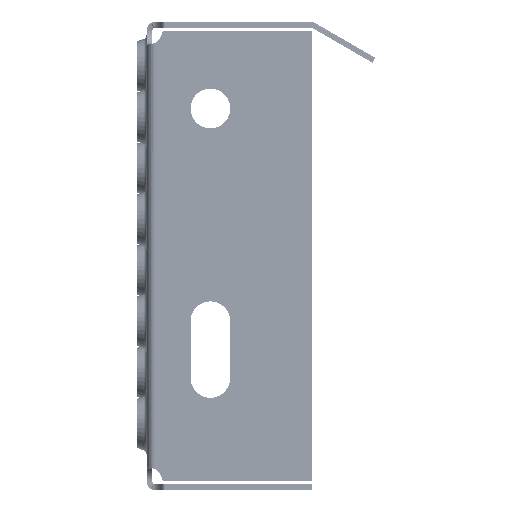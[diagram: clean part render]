
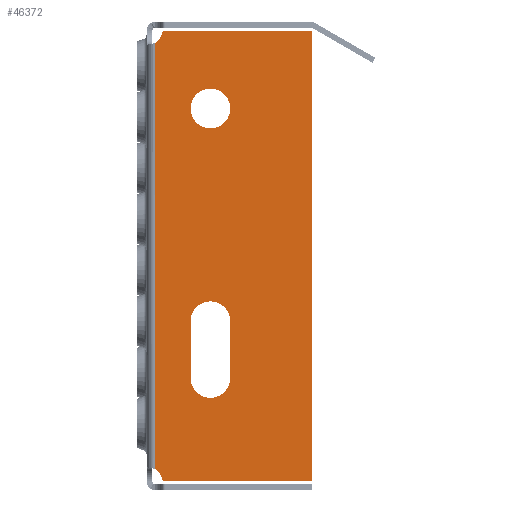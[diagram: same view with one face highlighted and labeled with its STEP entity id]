
A CAD part, left-side view. The second image highlights one B-rep face of the part: STEP entity #46372.
In plain terms, the highlighted planar face has unit normal (-1, 0, 0).
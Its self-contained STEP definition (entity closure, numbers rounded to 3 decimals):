
#2517 = DIRECTION ( 'NONE',  ( 0., -1., 0. ) ) ;
#2778 = DIRECTION ( 'NONE',  ( 1., 0., 0. ) ) ;
#3834 = AXIS2_PLACEMENT_3D ( 'NONE', #36696, #11082, #40986 ) ;
#4627 = CARTESIAN_POINT ( 'NONE',  ( -550., -58.5, -92. ) ) ;
#6097 = EDGE_LOOP ( 'NONE', ( #11728, #27257, #18641, #50879 ) ) ;
#6369 = CARTESIAN_POINT ( 'NONE',  ( -550., -15.5, -35.5 ) ) ;
#6448 = CARTESIAN_POINT ( 'NONE',  ( -550., -6.416, -92. ) ) ;
#6876 = DIRECTION ( 'NONE',  ( 0., 1., 0. ) ) ;
#7088 = DIRECTION ( 'NONE',  ( -1., 0., 0. ) ) ;
#7122 = EDGE_CURVE ( 'NONE', #21987, #16782, #38192, .T. ) ;
#7422 = DIRECTION ( 'NONE',  ( -1., 0., 0. ) ) ;
#7528 = AXIS2_PLACEMENT_3D ( 'NONE', #33050, #7422, #37316 ) ;
#7821 = CIRCLE ( 'NONE', #3834, 7. ) ;
#7884 = VERTEX_POINT ( 'NONE', #19587 ) ;
#9342 = EDGE_CURVE ( 'NONE', #27359, #31636, #49282, .T. ) ;
#9417 = EDGE_CURVE ( 'NONE', #7884, #53951, #17030, .T. ) ;
#9486 = ORIENTED_EDGE ( 'NONE', *, *, #9342, .T. ) ;
#11030 = DIRECTION ( 'NONE',  ( 0., 0., -1. ) ) ;
#11082 = DIRECTION ( 'NONE',  ( -1., 0., 0. ) ) ;
#11148 = CARTESIAN_POINT ( 'NONE',  ( -550., -6.416, -92. ) ) ;
#11170 = CARTESIAN_POINT ( 'NONE',  ( -550., -58.5, 67. ) ) ;
#11728 = ORIENTED_EDGE ( 'NONE', *, *, #23694, .F. ) ;
#12036 = DIRECTION ( 'NONE',  ( 1., 0., 0. ) ) ;
#12223 = EDGE_CURVE ( 'NONE', #12524, #25177, #45442, .T. ) ;
#12368 = FACE_BOUND ( 'NONE', #47901, .T. ) ;
#12524 = VERTEX_POINT ( 'NONE', #44356 ) ;
#12678 = ORIENTED_EDGE ( 'NONE', *, *, #14876, .T. ) ;
#12741 = DIRECTION ( 'NONE',  ( 0., 0., 1. ) ) ;
#12743 = DIRECTION ( 'NONE',  ( 1., 0., 0. ) ) ;
#13012 = CIRCLE ( 'NONE', #32179, 7. ) ;
#13074 = VECTOR ( 'NONE', #30661, 1000. ) ;
#13443 = CARTESIAN_POINT ( 'NONE',  ( -550., -29.5, -35.5 ) ) ;
#13647 = LINE ( 'NONE', #37972, #33721 ) ;
#14042 = VECTOR ( 'NONE', #46781, 1000. ) ;
#14613 = EDGE_CURVE ( 'NONE', #51721, #51721, #7821, .T. ) ;
#14876 = EDGE_CURVE ( 'NONE', #17781, #27359, #13647, .T. ) ;
#15248 = VECTOR ( 'NONE', #6876, 1000. ) ;
#15362 = EDGE_CURVE ( 'NONE', #31329, #23223, #13012, .T. ) ;
#16782 = VERTEX_POINT ( 'NONE', #41170 ) ;
#17030 = CIRCLE ( 'NONE', #7528, 1. ) ;
#17781 = VERTEX_POINT ( 'NONE', #4627 ) ;
#18155 = CARTESIAN_POINT ( 'NONE',  ( -550., -22.5, -55.5 ) ) ;
#18641 = ORIENTED_EDGE ( 'NONE', *, *, #24003, .F. ) ;
#18793 = CARTESIAN_POINT ( 'NONE',  ( -550., -6.416, 66. ) ) ;
#19154 = LINE ( 'NONE', #6369, #27863 ) ;
#19587 = CARTESIAN_POINT ( 'NONE',  ( -550., -5.43, -91.167 ) ) ;
#20956 = ORIENTED_EDGE ( 'NONE', *, *, #51666, .T. ) ;
#21445 = ORIENTED_EDGE ( 'NONE', *, *, #51834, .T. ) ;
#21612 = CARTESIAN_POINT ( 'NONE',  ( -550., -6.416, 67. ) ) ;
#21866 = VECTOR ( 'NONE', #2517, 1000. ) ;
#21987 = VERTEX_POINT ( 'NONE', #33655 ) ;
#22227 = ORIENTED_EDGE ( 'NONE', *, *, #54803, .T. ) ;
#22437 = DIRECTION ( 'NONE',  ( 0., 0., -1. ) ) ;
#23060 = DIRECTION ( 'NONE',  ( 0., 0., 1. ) ) ;
#23223 = VERTEX_POINT ( 'NONE', #46202 ) ;
#23694 = EDGE_CURVE ( 'NONE', #23223, #21987, #19154, .T. ) ;
#24003 = EDGE_CURVE ( 'NONE', #16782, #31329, #35843, .T. ) ;
#25177 = VERTEX_POINT ( 'NONE', #39037 ) ;
#26138 = AXIS2_PLACEMENT_3D ( 'NONE', #18793, #48650, #23060 ) ;
#26525 = ORIENTED_EDGE ( 'NONE', *, *, #12223, .F. ) ;
#27257 = ORIENTED_EDGE ( 'NONE', *, *, #15362, .F. ) ;
#27359 = VERTEX_POINT ( 'NONE', #11170 ) ;
#27863 = VECTOR ( 'NONE', #11030, 1000. ) ;
#28234 = CARTESIAN_POINT ( 'NONE',  ( -550., 0.5, -97.916 ) ) ;
#29644 = CARTESIAN_POINT ( 'NONE',  ( -550., -3., -97.916 ) ) ;
#29754 = AXIS2_PLACEMENT_3D ( 'NONE', #38345, #12743, #42641 ) ;
#30661 = DIRECTION ( 'NONE',  ( 0., 0., 1. ) ) ;
#31110 = CARTESIAN_POINT ( 'NONE',  ( -550., -22.5, 32.5 ) ) ;
#31329 = VERTEX_POINT ( 'NONE', #49832 ) ;
#31636 = VERTEX_POINT ( 'NONE', #21612 ) ;
#32179 = AXIS2_PLACEMENT_3D ( 'NONE', #32718, #7088, #36989 ) ;
#32492 = CARTESIAN_POINT ( 'NONE',  ( -550., -58.5, 67. ) ) ;
#32700 = DIRECTION ( 'NONE',  ( 0., 0., -1. ) ) ;
#32718 = CARTESIAN_POINT ( 'NONE',  ( -550., -22.5, -35.5 ) ) ;
#33050 = CARTESIAN_POINT ( 'NONE',  ( -550., -6.416, -91. ) ) ;
#33655 = CARTESIAN_POINT ( 'NONE',  ( -550., -15.5, -55.5 ) ) ;
#33721 = VECTOR ( 'NONE', #12741, 1000. ) ;
#34606 = LINE ( 'NONE', #6448, #21866 ) ;
#35843 = LINE ( 'NONE', #13443, #13074 ) ;
#36042 = VERTEX_POINT ( 'NONE', #42893 ) ;
#36696 = CARTESIAN_POINT ( 'NONE',  ( -550., -22.5, 39.5 ) ) ;
#36989 = DIRECTION ( 'NONE',  ( 0., 0., -1. ) ) ;
#37316 = DIRECTION ( 'NONE',  ( 0., 0., -1. ) ) ;
#37636 = CARTESIAN_POINT ( 'NONE',  ( -550., -0.5, 67. ) ) ;
#37972 = CARTESIAN_POINT ( 'NONE',  ( -550., -58.5, -92. ) ) ;
#38192 = CIRCLE ( 'NONE', #54696, 7. ) ;
#38345 = CARTESIAN_POINT ( 'NONE',  ( -550., -0.5, -92. ) ) ;
#39037 = CARTESIAN_POINT ( 'NONE',  ( -550., -3., 62.67 ) ) ;
#39269 = AXIS2_PLACEMENT_3D ( 'NONE', #28234, #2778, #32700 ) ;
#40986 = DIRECTION ( 'NONE',  ( 0., 0., -1. ) ) ;
#41170 = CARTESIAN_POINT ( 'NONE',  ( -550., -29.5, -55.5 ) ) ;
#41542 = ORIENTED_EDGE ( 'NONE', *, *, #14613, .F. ) ;
#41941 = DIRECTION ( 'NONE',  ( 0., 0., -1. ) ) ;
#42641 = DIRECTION ( 'NONE',  ( 0., 0., -1. ) ) ;
#42893 = CARTESIAN_POINT ( 'NONE',  ( -550., -5.43, 66.167 ) ) ;
#43535 = CIRCLE ( 'NONE', #26138, 1. ) ;
#44356 = CARTESIAN_POINT ( 'NONE',  ( -550., -3., -87.67 ) ) ;
#44831 = CIRCLE ( 'NONE', #29754, 5. ) ;
#45090 = CIRCLE ( 'NONE', #48541, 5. ) ;
#45132 = FACE_BOUND ( 'NONE', #6097, .T. ) ;
#45442 = LINE ( 'NONE', #29644, #14042 ) ;
#46202 = CARTESIAN_POINT ( 'NONE',  ( -550., -15.5, -35.5 ) ) ;
#46372 = ADVANCED_FACE ( 'NONE', ( #55168, #12368, #45132 ), #49655, .F. ) ;
#46781 = DIRECTION ( 'NONE',  ( 0., 0., 1. ) ) ;
#47523 = ORIENTED_EDGE ( 'NONE', *, *, #54406, .T. ) ;
#47901 = EDGE_LOOP ( 'NONE', ( #41542 ) ) ;
#48023 = DIRECTION ( 'NONE',  ( -1., 0., 0. ) ) ;
#48541 = AXIS2_PLACEMENT_3D ( 'NONE', #37636, #12036, #41941 ) ;
#48650 = DIRECTION ( 'NONE',  ( -1., 0., 0. ) ) ;
#48715 = ORIENTED_EDGE ( 'NONE', *, *, #9417, .T. ) ;
#49282 = LINE ( 'NONE', #32492, #15248 ) ;
#49655 = PLANE ( 'NONE',  #39269 ) ;
#49832 = CARTESIAN_POINT ( 'NONE',  ( -550., -29.5, -35.5 ) ) ;
#50879 = ORIENTED_EDGE ( 'NONE', *, *, #7122, .F. ) ;
#51666 = EDGE_CURVE ( 'NONE', #53951, #17781, #34606, .T. ) ;
#51721 = VERTEX_POINT ( 'NONE', #31110 ) ;
#51834 = EDGE_CURVE ( 'NONE', #36042, #25177, #45090, .T. ) ;
#53951 = VERTEX_POINT ( 'NONE', #11148 ) ;
#54406 = EDGE_CURVE ( 'NONE', #31636, #36042, #43535, .T. ) ;
#54696 = AXIS2_PLACEMENT_3D ( 'NONE', #18155, #48023, #22437 ) ;
#54803 = EDGE_CURVE ( 'NONE', #12524, #7884, #44831, .T. ) ;
#55028 = EDGE_LOOP ( 'NONE', ( #26525, #22227, #48715, #20956, #12678, #9486, #47523, #21445 ) ) ;
#55168 = FACE_OUTER_BOUND ( 'NONE', #55028, .T. ) ;
